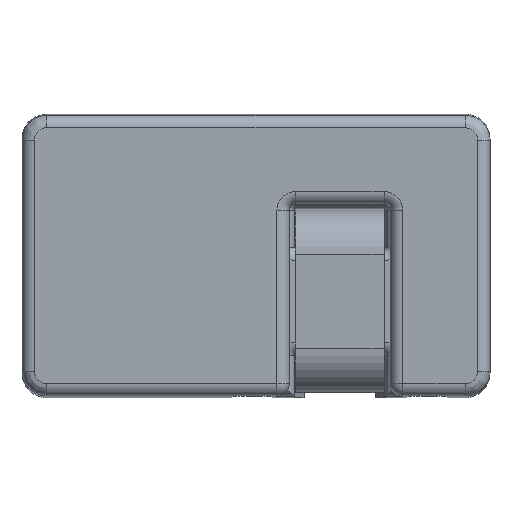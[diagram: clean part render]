
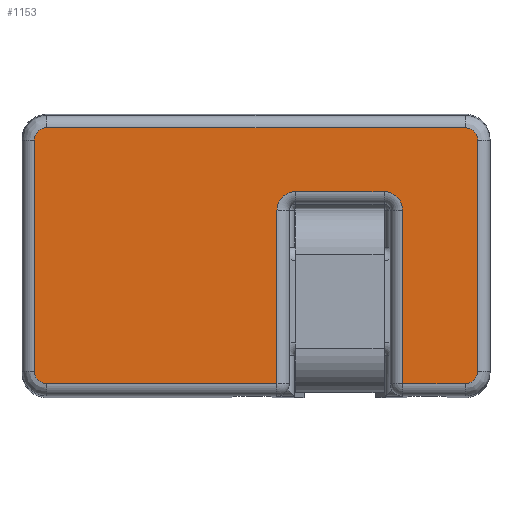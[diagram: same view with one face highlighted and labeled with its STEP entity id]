
A CAD part, top view. The second image highlights one B-rep face of the part: STEP entity #1153.
In plain terms, the highlighted planar face has unit normal (0, 0, 1).
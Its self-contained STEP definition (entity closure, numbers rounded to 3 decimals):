
#846=ELLIPSE('',#6419,0.5,0.5);
#847=ELLIPSE('',#6420,0.5,0.5);
#848=ELLIPSE('',#6421,0.5,0.5);
#849=ELLIPSE('',#6422,0.5,0.5);
#980=CIRCLE('',#6417,0.75);
#981=CIRCLE('',#6418,0.75);
#1153=ADVANCED_FACE('',(#1678),#1419,.T.);
#1419=PLANE('',#6423);
#1678=FACE_OUTER_BOUND('',#1986,.T.);
#1986=EDGE_LOOP('',(#2824,#2825,#2826,#2827,#2828,#2829,#2830,#2831,#2832,
#2833,#2834,#2835,#2836,#2837));
#2824=ORIENTED_EDGE('',*,*,#4576,.T.);
#2825=ORIENTED_EDGE('',*,*,#4577,.T.);
#2826=ORIENTED_EDGE('',*,*,#4578,.T.);
#2827=ORIENTED_EDGE('',*,*,#4579,.T.);
#2828=ORIENTED_EDGE('',*,*,#4580,.T.);
#2829=ORIENTED_EDGE('',*,*,#4581,.T.);
#2830=ORIENTED_EDGE('',*,*,#4582,.T.);
#2831=ORIENTED_EDGE('',*,*,#4583,.T.);
#2832=ORIENTED_EDGE('',*,*,#4584,.T.);
#2833=ORIENTED_EDGE('',*,*,#4585,.T.);
#2834=ORIENTED_EDGE('',*,*,#4586,.T.);
#2835=ORIENTED_EDGE('',*,*,#4587,.T.);
#2836=ORIENTED_EDGE('',*,*,#4588,.T.);
#2837=ORIENTED_EDGE('',*,*,#4589,.T.);
#3968=VERTEX_POINT('',#8976);
#3969=VERTEX_POINT('',#8977);
#3970=VERTEX_POINT('',#8979);
#3971=VERTEX_POINT('',#8981);
#3972=VERTEX_POINT('',#8983);
#3973=VERTEX_POINT('',#8985);
#3974=VERTEX_POINT('',#8987);
#3975=VERTEX_POINT('',#8989);
#3976=VERTEX_POINT('',#8991);
#3977=VERTEX_POINT('',#8993);
#3978=VERTEX_POINT('',#8995);
#3979=VERTEX_POINT('',#8997);
#3980=VERTEX_POINT('',#8999);
#3981=VERTEX_POINT('',#9001);
#4576=EDGE_CURVE('',#3968,#3969,#5247,.T.);
#4577=EDGE_CURVE('',#3969,#3970,#5248,.T.);
#4578=EDGE_CURVE('',#3970,#3971,#980,.T.);
#4579=EDGE_CURVE('',#3971,#3972,#5249,.T.);
#4580=EDGE_CURVE('',#3972,#3973,#981,.T.);
#4581=EDGE_CURVE('',#3973,#3974,#5250,.T.);
#4582=EDGE_CURVE('',#3974,#3975,#5251,.T.);
#4583=EDGE_CURVE('',#3975,#3976,#846,.T.);
#4584=EDGE_CURVE('',#3976,#3977,#5252,.T.);
#4585=EDGE_CURVE('',#3977,#3978,#847,.T.);
#4586=EDGE_CURVE('',#3978,#3979,#5253,.T.);
#4587=EDGE_CURVE('',#3979,#3980,#848,.T.);
#4588=EDGE_CURVE('',#3980,#3981,#5254,.T.);
#4589=EDGE_CURVE('',#3981,#3968,#849,.T.);
#5247=LINE('',#8975,#5864);
#5248=LINE('',#8978,#5865);
#5249=LINE('',#8982,#5866);
#5250=LINE('',#8986,#5867);
#5251=LINE('',#8988,#5868);
#5252=LINE('',#8992,#5869);
#5253=LINE('',#8996,#5870);
#5254=LINE('',#9000,#5871);
#5864=VECTOR('',#7381,1.);
#5865=VECTOR('',#7382,1.);
#5866=VECTOR('',#7385,1.);
#5867=VECTOR('',#7388,1.);
#5868=VECTOR('',#7389,1.);
#5869=VECTOR('',#7392,1.);
#5870=VECTOR('',#7395,1.);
#5871=VECTOR('',#7398,1.);
#6417=AXIS2_PLACEMENT_3D('',#8980,#7383,#7384);
#6418=AXIS2_PLACEMENT_3D('',#8984,#7386,#7387);
#6419=AXIS2_PLACEMENT_3D('',#8990,#7390,#7391);
#6420=AXIS2_PLACEMENT_3D('',#8994,#7393,#7394);
#6421=AXIS2_PLACEMENT_3D('',#8998,#7396,#7397);
#6422=AXIS2_PLACEMENT_3D('',#9002,#7399,#7400);
#6423=AXIS2_PLACEMENT_3D('',#9003,#7401,#7402);
#7381=DIRECTION('',(1.,0.,0.));
#7382=DIRECTION('',(0.,1.,0.));
#7383=DIRECTION('',(0.,0.,-1.));
#7384=DIRECTION('',(1.,0.,0.));
#7385=DIRECTION('',(1.,0.,0.));
#7386=DIRECTION('',(0.,0.,-1.));
#7387=DIRECTION('',(1.,0.,0.));
#7388=DIRECTION('',(0.,-1.,0.));
#7389=DIRECTION('',(1.,0.,0.));
#7390=DIRECTION('',(0.,0.,1.));
#7391=DIRECTION('',(0.,1.,0.));
#7392=DIRECTION('',(0.,1.,0.));
#7393=DIRECTION('',(0.,0.,1.));
#7394=DIRECTION('',(0.,1.,0.));
#7395=DIRECTION('',(-1.,0.,0.));
#7396=DIRECTION('',(0.,0.,1.));
#7397=DIRECTION('',(0.,1.,0.));
#7398=DIRECTION('',(0.,-1.,0.));
#7399=DIRECTION('',(0.,0.,1.));
#7400=DIRECTION('',(0.,-1.,0.));
#7401=DIRECTION('',(0.,0.,1.));
#7402=DIRECTION('',(1.,0.,0.));
#8975=CARTESIAN_POINT('',(153.65,-4.944,6.2));
#8976=CARTESIAN_POINT('',(144.1,-4.944,6.2));
#8977=CARTESIAN_POINT('',(153.45,-4.944,6.2));
#8978=CARTESIAN_POINT('',(153.45,2.2,6.2));
#8979=CARTESIAN_POINT('',(153.45,2.1,6.2));
#8980=CARTESIAN_POINT('',(154.2,2.1,6.2));
#8981=CARTESIAN_POINT('',(154.2,2.85,6.2));
#8982=CARTESIAN_POINT('',(155.,2.85,6.2));
#8983=CARTESIAN_POINT('',(157.8,2.85,6.2));
#8984=CARTESIAN_POINT('',(157.8,2.1,6.2));
#8985=CARTESIAN_POINT('',(158.55,2.1,6.2));
#8986=CARTESIAN_POINT('',(158.55,-3.,6.2));
#8987=CARTESIAN_POINT('',(158.55,-4.944,6.2));
#8988=CARTESIAN_POINT('',(161.1,-4.944,6.2));
#8989=CARTESIAN_POINT('',(161.1,-4.944,6.2));
#8990=CARTESIAN_POINT('',(161.1,-4.444,6.2));
#8991=CARTESIAN_POINT('',(161.6,-4.444,6.2));
#8992=CARTESIAN_POINT('',(161.6,4.94,6.2));
#8993=CARTESIAN_POINT('',(161.6,4.944,6.2));
#8994=CARTESIAN_POINT('',(161.1,4.944,6.2));
#8995=CARTESIAN_POINT('',(161.1,5.444,6.2));
#8996=CARTESIAN_POINT('',(144.1,5.444,6.2));
#8997=CARTESIAN_POINT('',(144.1,5.444,6.2));
#8998=CARTESIAN_POINT('',(144.1,4.944,6.2));
#8999=CARTESIAN_POINT('',(143.6,4.944,6.2));
#9000=CARTESIAN_POINT('',(143.6,-4.44,6.2));
#9001=CARTESIAN_POINT('',(143.6,-4.444,6.2));
#9002=CARTESIAN_POINT('',(144.1,-4.444,6.2));
#9003=CARTESIAN_POINT('',(155.,-3.,6.2));
